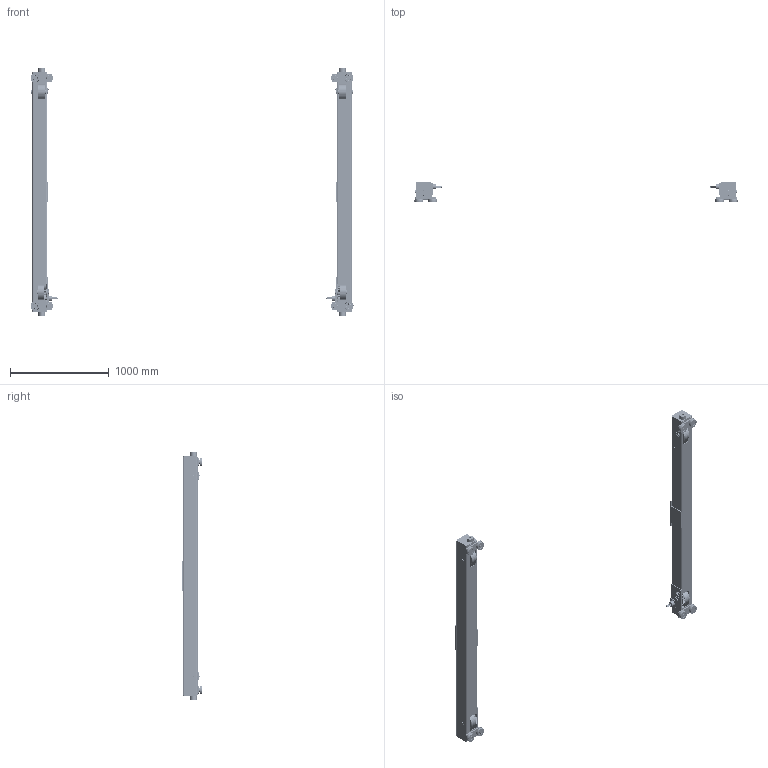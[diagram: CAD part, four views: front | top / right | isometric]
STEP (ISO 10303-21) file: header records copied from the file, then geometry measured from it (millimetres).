
FILE_DESCRIPTION (( 'STEP AP214' ), '1' );
FILE_NAME ('TG-3-0350.STEP', '2026-08-07T19:06:05', ( '' ), ( '' ), 'SwSTEP 2.0', 'SolidWorks 2026', '' );
FILE_SCHEMA (( 'AUTOMOTIVE_DESIGN' ));
Length unit declared in the file: inch
Products named in the file (50): 6240825; 6240805X_6240805A; N6Q0720E9102; N6QL210207; 62399_6239902; 6240820; N6QO720E91341; 6240824; T600-600-004_95.125; 9000707; 9047120_9047120; N6GO310306; N6GO310303; 9047125_B27.7M - 3AM1-23; 9093327_9093327; 9093101_9093101; N6GO310V301; 9012514_9012514; 9000504; 9000605; 9012711_9012711; T3P116030; 6240817X_6240817A; N6QO720E91311; N6Q07201102; 6240811; 9047242_9047242; 62401_0350-0360 - 25# RAIL; 6240815; N6GO310V5303; J1WS011-10060_GB_FASTENER_WASHER_SW 6; TG-3-0350; N6Q03101108; J1BE1-0602020_AS 1420 - M6 x 20-S; 6240813; 9093328_9093328; 6232404; 62400_0350-0360 - 25# RAIL; 6240809; N6QO720E91013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
Assembly tree (151 placements, depth 4):
  TG-3-0350
    62400_0350-0360 - 25# RAIL
      62398_6239802
        T600-600-004_95.125
        6240824
        6240820
      6240811  x2
      6240813
      6240810
      6240808
      6240809
      T3P116030
      6240817X_6240817A  x2
        6240805X_6240805A
        6232305
    62401_0350-0360 - 25# RAIL
      62399_6239902
        T600-600-004_95.125
        6240824
        6240820
      6240811  x2
      6240813
      T3P116030
      6240809
      6240808
      6240810
      6240817X_6240817A  x2
        6240805X_6240805A
        6232305
    N6Q03101108  x8
      N6Q0310E9108
      9047252_9047252
      9000605
    6232404  x8
    9047125_B27.7M - 3AM1-23  x8
    N6QL210207  x4
    9012514_9012514  x4
    9012711_9012711  x20
    9093101_9093101  x4
    6240815  x4
    6240825  x4
    9093327_9093327  x8
    N6QO7201101  x2
      N6QO720E91311
      N6QO720E91013
      9000707
      J1WS011-10060_GB_FASTENER_WASHER_SW 6
      J1BE1-0602020_AS 1420 - M6 x 20-S
      N6QO720E91341
    N6Q07201102  x2
      N6Q0720E9102
      9000707
    N6GO310V5303  x2
      N6GO310303
      9047120_9047120
      9047242_9047242
      N6GO310306
      N6GO310V301
      9000504
    9093328_9093328  x8
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Bounding box: 3275.61 x 207.96 x 2513.22 mm (x, y, z)
Volume: 27618576.3 mm3; surface area: 7788526.4 mm2
Topology: 170 solids, 250 shells, 14398 faces, 36876 edges, 23774 vertices
Faces by surface type: plane 7868, cylinder 2990, cone 1828, bspline 1448, torus 264
Entity records: 143027 total; most frequent: CARTESIAN_POINT 65187, ORIENTED_EDGE 16410, DIRECTION 13407, EDGE_CURVE 8211, VERTEX_POINT 5401, AXIS2_PLACEMENT_3D 4783, VECTOR 3841, LINE 3841
